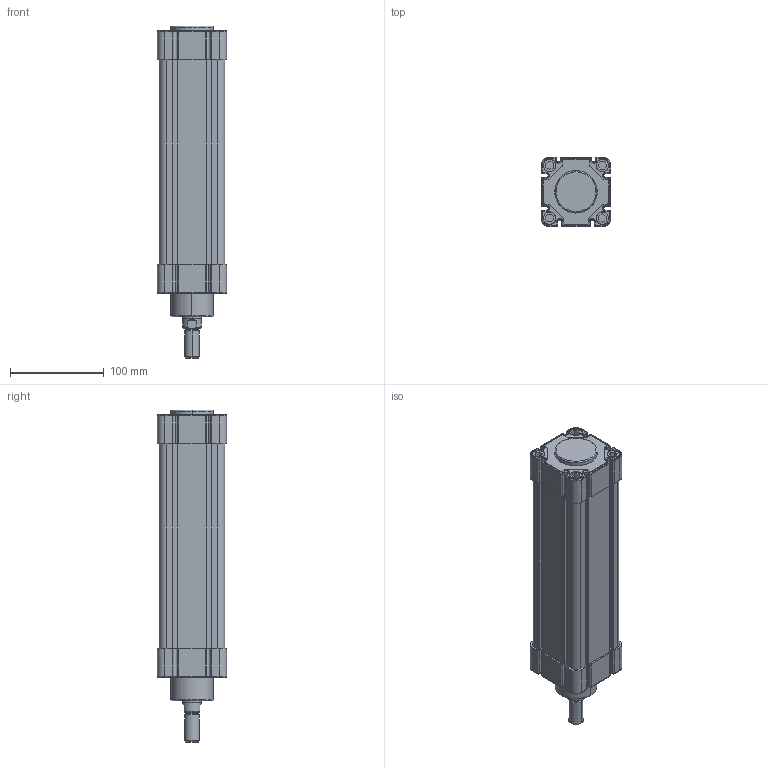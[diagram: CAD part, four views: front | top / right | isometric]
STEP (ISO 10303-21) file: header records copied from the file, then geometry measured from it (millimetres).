
FILE_DESCRIPTION((''),'2;1');
FILE_NAME('N11M20630160.stp','2010-01-06T14:14:57',('B. Petkovic 2010'),('AZ PNEUMATICA S.r.l.'),'Mechanical Desktop 2006','Mechanical Desktop 2006','Via Marco Biagi 6, I-20020 Misinto(MI) Italy, azpneu@tin.it');
FILE_SCHEMA(('CONFIG_CONTROL_DESIGN'));
Length unit declared in the file: millimetre
Products named in the file (2): N11M20500160; CILINDAR
Assembly tree (1 placements, depth 2):
  N11M20500160
    CILINDAR
Bounding box: 74 x 74 x 355 mm (x, y, z)
Volume: 1365218.7 mm3; surface area: 138456.1 mm2
Topology: 1 solids, 1 shells, 713 faces, 1809 edges, 1109 vertices
Faces by surface type: plane 317, cylinder 316, torus 40, sphere 32, cone 4, bspline 4
Entity records: 21553 total; most frequent: DIRECTION 3932, CARTESIAN_POINT 3877, ORIENTED_EDGE 3554, EDGE_CURVE 1777, AXIS2_PLACEMENT_3D 1448, VERTEX_POINT 1109, VECTOR 1036, LINE 1036
